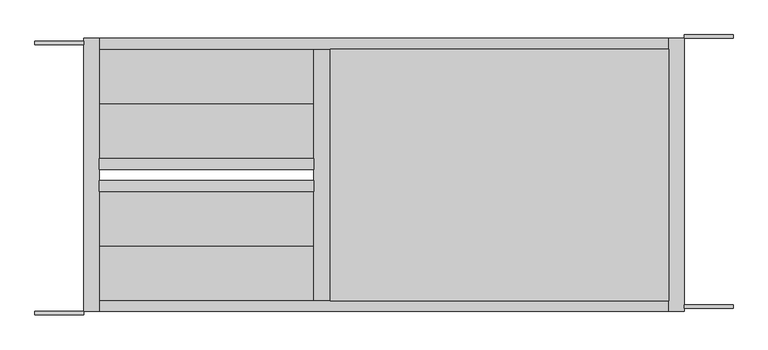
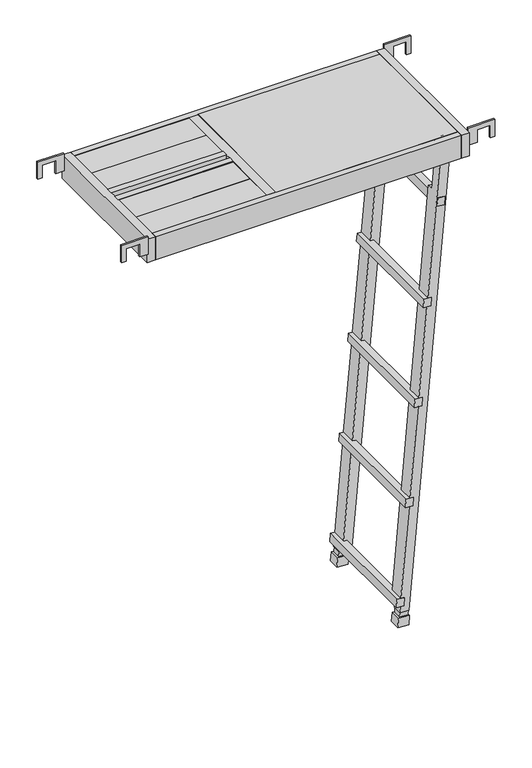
"""IFC4 building model written with IfcOpenShell, lengths in millimetres: proxy geometry, AK_アルミハッチ式布板HF-512HT(タラップ式)_軽 : AK_アルミハッチ式布板HF-512HT(タラップ式)_軽."""

from ifc_helpers import new_model, si_unit, point, frame, origin, place, context, project, spatial, polyline, circle_curve, ellipse_curve, trimmed, outline, extrude, faceted_brep, source, transform, mapped, element, save
from ifc_brep_helpers import plane_surface, cylinder_surface, revolved_surface, advanced_brep


def generic_models_8592025f(model_context):
    return source(origin(), model_context, "Body", "SolidModel", [
        extrude(outline(polyline([(-24.1, 1787.514719), (22.0, 1787.514719), (22.0, 1832.514719), (-24.1, 1832.514719), (-24.1, 1847.514719), (37.5, 1847.514719), (37.5, 1758.0), (-24.1, 1758.0), (-24.1, 1787.514719)])), frame((0.0, 12.0, 0.0), z_axis=(0.0, 1.0, 0.0), x_axis=(0.0, 0.0, 1.0)), (0.0, 0.0, 1.0), 6.0),
        extrude(outline(polyline([(-24.1, 1787.514719), (22.0, 1787.514719), (22.0, 1832.514719), (-24.1, 1832.514719), (-24.1, 1847.514719), (37.5, 1847.514719), (37.5, 1758.0), (-24.1, 1758.0), (-24.1, 1787.514719)])), frame((0.0, 506.0, 0.0), z_axis=(0.0, 1.0, 0.0), x_axis=(0.0, 0.0, 1.0)), (0.0, 0.0, 1.0), 6.0),
        extrude(outline(polyline([(37.5, 572.5), (-24.1, 572.5), (-24.1, 587.5), (22.0, 587.5), (22.0, 632.5), (-24.1, 632.5), (-24.1, 662.0), (37.5, 662.0), (37.5, 572.5)])), frame((0.0, 0.0, 0.0), z_axis=(0.0, 1.0, 0.0), x_axis=(0.0, 0.0, 1.0)), (0.0, 0.0, 1.0), 6.0),
        extrude(outline(polyline([(37.5, 572.5), (-24.1, 572.5), (-24.1, 587.5), (22.0, 587.5), (22.0, 632.5), (-24.1, 632.5), (-24.1, 662.0), (37.5, 662.0), (37.5, 572.5)])), frame((0.0, 494.0, 0.0), z_axis=(0.0, 1.0, 0.0), x_axis=(0.0, 0.0, 1.0)), (0.0, 0.0, 1.0), 6.0),
        faceted_brep([(1696.8713185, 61.0, -7.6736677), (1728.7495289, 61.0, -10.4626497), (1728.7495289, 93.0919881, -10.4626497), (1696.8713185, 93.0919881, -7.6736677), (1679.8863585, 93.0919881, -201.8126482), (1679.8811943, 112.0, -201.871676), (1648.1829567, 112.0, -564.1841892), (1648.1829567, 61.0, -564.1841892), (1645.6379837, 61.0, -593.2733633), (1645.6379837, 112.0, -593.2733633), (1617.6699621, 112.0, -912.9493135), (1617.6699621, 61.0, -912.9493135), (1615.1250143, 61.0, -942.0381999), (1615.1250143, 112.0, -942.0381999), (1587.1739367, 112.0, -1261.5204792), (1587.1739367, 61.0, -1261.5204792), (1556.660942, 61.0, -1610.2856036), (1584.6289637, 61.0, -1290.6096533), (1584.6289637, 112.0, -1290.6096533), (1556.660942, 112.0, -1610.2856036), (1556.660942, 93.00001, -1610.2856036), (1711.7645689, 93.0919881, -204.6016302), (1584.192389, 61.0, -1662.7583192), (1584.192389, 93.00001, -1662.7583192), (1586.0594287, 93.00001, -1641.4179577), (1586.0594287, 112.0, -1641.4179577), (1711.7594047, 112.0, -204.660658), (1659.5661476, 61.0, -565.180097), (1657.0211838, 61.0, -594.2692585), (1629.0616404, 61.0, -913.9459491), (1626.5166964, 61.0, -943.0348519), (1598.5571276, 61.0, -1262.516387), (1596.0121638, 61.0, -1291.6055485), (1568.0526204, 61.0, -1611.2822392), (1565.5076764, 61.0, -1640.371142), (1554.1159942, 61.0, -1639.37449), (1552.3141786, 61.0, -1659.9693372), (1703.6334262, 61.0, -247.3604098), (1678.5293384, 61.0, -245.1640669), (1681.0742845, 61.0, -216.0751997), (1706.1783754, 61.0, -218.2715075), (1565.5729011, 112.0, -1639.6256188), (1568.0526204, 112.0, -1611.2822392), (1596.0121638, 112.0, -1291.6055485), (1598.5571276, 112.0, -1262.516387), (1626.5166964, 112.0, -943.0348519), (1629.0616404, 112.0, -913.9459491), (1657.0211838, 112.0, -594.2692585), (1659.5661476, 112.0, -565.180097), (1678.5293384, 112.0, -245.1640669), (1703.6334262, 112.0, -247.3604098), (1706.1783754, 112.0, -218.2715075), (1681.0742845, 112.0, -216.0751997), (1565.5729011, 93.00001, -1639.6256188), (1586.05974, 400.0, -1641.417985), (1711.7597159, 400.0, -204.6606852), (1679.8811942, 400.0, -201.871676), (1648.1829566, 400.0, -564.1841892), (1659.5661476, 400.0, -565.180097), (1657.0211838, 400.0, -594.2692585), (1645.6379837, 400.0, -593.2733633), (1617.669962, 400.0, -912.9493135), (1629.0616404, 400.0, -913.9459491), (1626.5166964, 400.0, -943.0348519), (1615.1250142, 400.0, -942.0381999), (1587.1739366, 400.0, -1261.5204792), (1598.5571276, 400.0, -1262.516387), (1596.0121638, 400.0, -1291.6055485), (1584.6289636, 400.0, -1290.6096533), (1556.660942, 400.0, -1610.2856036), (1568.0526204, 400.0, -1611.2822392), (1565.5729011, 400.0, -1639.6256188), (1703.6334262, 400.0, -247.3604098), (1678.5293384, 400.0, -245.1640669), (1681.0742845, 400.0, -216.0751997), (1706.1783754, 400.0, -218.2715075), (1696.8713185, 451.0, -7.6736677), (1728.7495289, 451.0, -10.4626497), (1584.3535869, 451.0, -1660.9158185), (1552.4753765, 451.0, -1658.1268364), (1554.1159942, 451.0, -1639.37449), (1565.5076764, 451.0, -1640.371142), (1568.0526204, 451.0, -1611.2822392), (1556.660942, 451.0, -1610.2856036), (1584.6289636, 451.0, -1290.6096533), (1596.0121638, 451.0, -1291.6055485), (1598.5571276, 451.0, -1262.516387), (1587.1739366, 451.0, -1261.5204792), (1615.1250143, 451.0, -942.0381999), (1626.5166964, 451.0, -943.0348519), (1629.0616404, 451.0, -913.9459491), (1617.6699621, 451.0, -912.9493135), (1645.6379837, 451.0, -593.2733633), (1657.0211838, 451.0, -594.2692585), (1659.5661476, 451.0, -565.180097), (1648.1829567, 451.0, -564.1841892), (1678.5293384, 451.0, -245.1640669), (1703.6334262, 451.0, -247.3604098), (1706.1783754, 451.0, -218.2715075), (1681.0742845, 451.0, -216.0751997), (1696.8713184, 418.9080119, -7.6736677), (1679.8811942, 418.9080119, -201.871676), (1556.660942, 418.99999, -1610.2856036), (1565.5729011, 418.99999, -1639.6256188), (1586.05974, 418.99999, -1641.417985), (1584.3538982, 418.99999, -1660.9158457), (1728.7498401, 418.9080119, -10.4626769), (1711.7648802, 418.9080119, -204.6016575), (1703.6334262, 452.0, -247.3604098), (1678.5293384, 452.0, -245.1640669), (1681.0742845, 452.0, -216.0751997), (1706.1783754, 452.0, -218.2715075), (1703.6334262, 60.0, -247.3604098), (1706.1783754, 60.0, -218.2715075), (1681.0742845, 60.0, -216.0751997), (1678.5293384, 60.0, -245.1640669), (1631.9170612, 60.0, -592.0729451), (1657.0211838, 60.0, -594.2692585), (1659.5661476, 60.0, -565.180097), (1634.4620596, 60.0, -562.9837569), (1631.9170612, 452.0, -592.0729451), (1634.4620596, 452.0, -562.9837569), (1659.5661476, 452.0, -565.180097), (1657.0211838, 452.0, -594.2692585), (1603.9575496, 60.0, -911.7496414), (1601.4125766, 60.0, -940.8385062), (1626.5166964, 60.0, -943.0348519), (1629.0616404, 60.0, -913.9459491), (1603.9575496, 452.0, -911.7496414), (1629.0616404, 452.0, -913.9459491), (1626.5166964, 452.0, -943.0348519), (1601.4125766, 452.0, -940.8385062), (1573.4530396, 60.0, -1260.320047), (1570.9080412, 60.0, -1289.4092351), (1596.0121638, 60.0, -1291.6055485), (1598.5571276, 60.0, -1262.516387), (1573.4530396, 452.0, -1260.320047), (1598.5571276, 452.0, -1262.516387), (1596.0121638, 452.0, -1291.6055485), (1570.9080412, 452.0, -1289.4092351), (1542.9485296, 60.0, -1609.0859315), (1540.4035566, 60.0, -1638.1747963), (1565.5076764, 60.0, -1640.371142), (1568.0526204, 60.0, -1611.2822392), (1542.9485296, 452.0, -1609.0859315), (1568.0526204, 452.0, -1611.2822392), (1565.5076764, 452.0, -1640.371142), (1540.4035566, 452.0, -1638.1747963), (1554.1159942, 418.99999, -1639.37449), (1565.5076764, 418.99999, -1640.371142), (1565.5076764, 93.00001, -1640.371142), (1554.1159942, 93.00001, -1639.37449), (1552.4753765, 418.99999, -1658.1268364), (1552.3141786, 93.00001, -1659.9693372)], [[[0, 1, 2, 3]], [[0, 3, 4, 5, 6, 7]], [[8, 9, 10, 11]], [[12, 13, 14, 15]], [[16, 17, 18, 19, 20]], [[3, 2, 21, 4]], [[2, 1, 22, 23, 24, 25, 26, 21]], [[22, 1, 0, 7, 27, 28, 8, 11, 29, 30, 12, 15, 31, 32, 17, 16, 33, 34, 35, 36], [37, 38, 39, 40]], [[5, 26, 25, 41, 42, 19, 18, 43, 44, 14, 13, 45, 46, 10, 9, 47, 48, 6], [49, 50, 51, 52]], [[41, 25, 24, 53]], [[26, 5, 4, 21]], [[54, 55, 56, 57, 58, 59, 60, 61, 62, 63, 64, 65, 66, 67, 68, 69, 70, 71], [72, 73, 74, 75]], [[76, 77, 78, 79, 80, 81, 82, 83, 84, 85, 86, 87, 88, 89, 90, 91, 92, 93, 94, 95], [96, 97, 98, 99]], [[100, 76, 95, 57, 56, 101]], [[60, 92, 91, 61]], [[64, 88, 87, 65]], [[68, 84, 83, 102, 69]], [[54, 71, 103, 104]], [[55, 54, 104, 105, 78, 77, 106, 107]], [[56, 55, 107, 101]], [[108, 109, 110, 111]], [[112, 113, 114, 115]], [[109, 108, 97, 96]], [[112, 115, 38, 37]], [[72, 50, 49, 73]], [[110, 109, 96, 99]], [[115, 114, 39, 38]], [[73, 49, 52, 74]], [[111, 110, 99, 98]], [[114, 113, 40, 39]], [[74, 52, 51, 75]], [[108, 111, 98, 97]], [[113, 112, 37, 40]], [[50, 72, 75, 51]], [[76, 100, 106, 77]], [[106, 100, 101, 107]], [[116, 117, 118, 119]], [[120, 121, 122, 123]], [[117, 116, 120, 123, 93, 92, 60, 59, 47, 9, 8, 28]], [[118, 117, 28, 27]], [[123, 122, 94, 93]], [[47, 59, 58, 48]], [[119, 118, 27, 7, 6, 48, 58, 57, 95, 94, 122, 121]], [[116, 119, 121, 120]], [[124, 125, 126, 127]], [[128, 129, 130, 131]], [[125, 124, 128, 131]], [[126, 125, 131, 130, 89, 88, 64, 63, 45, 13, 12, 30]], [[127, 126, 30, 29]], [[130, 129, 90, 89]], [[45, 63, 62, 46]], [[124, 127, 29, 11, 10, 46, 62, 61, 91, 90, 129, 128]], [[132, 133, 134, 135]], [[136, 137, 138, 139]], [[133, 132, 136, 139]], [[134, 133, 139, 138, 85, 84, 68, 67, 43, 18, 17, 32]], [[135, 134, 32, 31]], [[138, 137, 86, 85]], [[43, 67, 66, 44]], [[132, 135, 31, 15, 14, 44, 66, 65, 87, 86, 137, 136]], [[140, 141, 142, 143]], [[144, 145, 146, 147]], [[141, 140, 144, 147]], [[142, 141, 147, 146, 81, 80, 148, 149, 150, 151, 35, 34]], [[143, 142, 34, 33]], [[146, 145, 82, 81]], [[70, 42, 41, 53, 150, 149, 103, 71]], [[140, 143, 33, 16, 20, 19, 42, 70, 69, 102, 83, 82, 145, 144]], [[78, 105, 152, 79]], [[79, 152, 148, 80]], [[152, 105, 104, 103, 149, 148]], [[22, 36, 153, 23]], [[153, 36, 35, 151]], [[23, 153, 151, 150, 53, 24]]]),
        advanced_brep(
        [(1696.4537998, 26.0, -30.0), (1688.4537998, 26.0, -30.0), (1688.4537998, 90.1689973, -30.0), (1696.4537998, 90.1689973, -30.0), (1708.8086099, 102.5238074, -30.0), (1708.8086099, 110.5238074, -30.0), (1723.8086099, 102.5238074, -30.0), (1723.8086099, 110.5238074, -30.0)],
        [
            (0, 1, circle_curve(frame((1692.4537998, 26.0, -30.0), z_axis=(0.0, -1.0, 0.0), x_axis=(-1.0, 0.0, 0.0)), 4.0)),
            (1, 0, circle_curve(frame((1692.4537998, 26.0, -30.0), z_axis=(0.0, -1.0, 0.0), x_axis=(-1.0, 0.0, 0.0)), 4.0)),
            (1, 2),
            (2, 3, circle_curve(frame((1692.4537998, 90.1689973, -30.0), z_axis=(0.0, -1.0, 0.0), x_axis=(-1.0, 0.0, 0.0)), 4.0)),
            (3, 0),
            (3, 2, circle_curve(frame((1692.4537998, 90.1689973, -30.0), z_axis=(0.0, -1.0, 0.0), x_axis=(-1.0, 0.0, 0.0)), 4.0)),
            (4, 3, circle_curve(frame((1708.8086099, 90.1689973, -30.0), z_axis=(0.0, 0.0, 1.0), x_axis=(-1.0, 0.0, 0.0)), 12.35481)),
            (2, 5, circle_curve(frame((1708.8086099, 90.1689973, -30.0), z_axis=(0.0, 0.0, -1.0), x_axis=(-1.0, 0.0, 0.0)), 20.35481)),
            (5, 4, circle_curve(frame((1708.8086099, 106.5238074, -30.0), z_axis=(-1.0, 0.0, 0.0), x_axis=(0.0, 1.0, 0.0)), 4.0)),
            (4, 5, circle_curve(frame((1708.8086099, 106.5238074, -30.0), z_axis=(-1.0, 0.0, 0.0), x_axis=(0.0, 1.0, 0.0)), 4.0)),
            (6, 7, circle_curve(frame((1723.8086099, 106.5238074, -30.0), z_axis=(1.0, 0.0, 0.0), x_axis=(0.0, 1.0, 0.0)), 4.0)),
            (7, 6, circle_curve(frame((1723.8086099, 106.5238074, -30.0), z_axis=(1.0, 0.0, 0.0), x_axis=(0.0, 1.0, 0.0)), 4.0)),
            (5, 7),
            (6, 4),
        ],
        [
            plane_surface(frame((1692.4537998, 26.0, -30.0), z_axis=(0.0, -1.0, 0.0), x_axis=(0.0, 0.0, 1.0))),
            cylinder_surface(frame((1692.4537998, 26.0, -30.0), z_axis=(0.0, -1.0, 0.0), x_axis=(-1.0, 0.0, 0.0)), 4.0),
            revolved_surface(trimmed(ellipse_curve(frame((1692.4537998, 90.1689973, -30.0), z_axis=(0.0, -1.0, 0.0), x_axis=(-1.0, 0.0, 0.0)), 4.0, 4.0), [point((1688.4537998, 90.1689973, -30.0))], [point((1696.4537998, 90.1689973, -30.0))], True, "CARTESIAN"), (1708.8086099, 90.1689973, -30.0), (0.0, 0.0, -1.0)),
            revolved_surface(trimmed(ellipse_curve(frame((1692.4537998, 90.1689973, -30.0), z_axis=(0.0, -1.0, 0.0), x_axis=(-1.0, 0.0, 0.0)), 4.0, 4.0), [point((1696.4537998, 90.1689973, -30.0))], [point((1688.4537998, 90.1689973, -30.0))], True, "CARTESIAN"), (1708.8086099, 90.1689973, -30.0), (0.0, 0.0, -1.0)),
            plane_surface(frame((1723.8086099, 106.5238074, -30.0), z_axis=(1.0, 0.0, 0.0), x_axis=(0.0, 0.0, 1.0))),
            cylinder_surface(frame((1708.8086099, 106.5238074, -30.0), z_axis=(-1.0, 0.0, 0.0), x_axis=(0.0, 1.0, 0.0)), 4.0),
        ],
        [
            (0, [[1, 2]]),
            (1, [[-2, 3, 4, 5]]),
            (1, [[-1, -5, 6, -3]]),
            (2, [[7, -4, 8, 9]]),
            (3, [[-8, -6, -7, 10]]),
            (4, [[11, 12]]),
            (5, [[-9, 13, -11, 14]]),
            (5, [[-10, -14, -12, -13]]),
        ],
    ),
        advanced_brep(
        [(1688.4537998, 486.0, -30.0), (1696.4537998, 486.0, -30.0), (1688.4537998, 421.8310027, -30.0), (1696.4537998, 421.8310027, -30.0), (1708.8086099, 409.4761926, -30.0), (1708.8086099, 401.4761926, -30.0), (1723.8086099, 401.4761926, -30.0), (1723.8086099, 409.4761926, -30.0)],
        [
            (0, 1, circle_curve(frame((1692.4537998, 486.0, -30.0), z_axis=(0.0, 1.0, 0.0), x_axis=(1.0, 0.0, 0.0)), 4.0)),
            (1, 0, circle_curve(frame((1692.4537998, 486.0, -30.0), z_axis=(0.0, 1.0, 0.0), x_axis=(1.0, 0.0, 0.0)), 4.0)),
            (0, 2),
            (2, 3, circle_curve(frame((1692.4537998, 421.8310027, -30.0), z_axis=(0.0, 1.0, 0.0), x_axis=(1.0, 0.0, 0.0)), 4.0)),
            (3, 1),
            (3, 2, circle_curve(frame((1692.4537998, 421.8310027, -30.0), z_axis=(0.0, 1.0, 0.0), x_axis=(1.0, 0.0, 0.0)), 4.0)),
            (4, 3, circle_curve(frame((1708.8086099, 421.8310027, -30.0), z_axis=(0.0, 0.0, -1.0), x_axis=(-1.0, 0.0, 0.0)), 12.35481)),
            (2, 5, circle_curve(frame((1708.8086099, 421.8310027, -30.0), z_axis=(0.0, 0.0, 1.0), x_axis=(-1.0, 0.0, 0.0)), 20.35481)),
            (5, 4, circle_curve(frame((1708.8086099, 405.4761926, -30.0), z_axis=(-1.0, 0.0, 0.0), x_axis=(0.0, 1.0, 0.0)), 4.0)),
            (4, 5, circle_curve(frame((1708.8086099, 405.4761926, -30.0), z_axis=(-1.0, 0.0, 0.0), x_axis=(0.0, 1.0, 0.0)), 4.0)),
            (6, 7, circle_curve(frame((1723.8086099, 405.4761926, -30.0), z_axis=(1.0, 0.0, 0.0), x_axis=(0.0, 1.0, 0.0)), 4.0)),
            (7, 6, circle_curve(frame((1723.8086099, 405.4761926, -30.0), z_axis=(1.0, 0.0, 0.0), x_axis=(0.0, 1.0, 0.0)), 4.0)),
            (5, 6),
            (7, 4),
        ],
        [
            plane_surface(frame((1692.4537998, 486.0, -30.0), z_axis=(0.0, 1.0, 0.0), x_axis=(0.0, 0.0, 1.0))),
            cylinder_surface(frame((1692.4537998, 486.0, -30.0), z_axis=(0.0, 1.0, 0.0), x_axis=(1.0, 0.0, 0.0)), 4.0),
            revolved_surface(trimmed(ellipse_curve(frame((1692.4537998, 421.8310027, -30.0), z_axis=(0.0, 1.0, 0.0), x_axis=(1.0, 0.0, 0.0)), 4.0, 4.0), [point((1688.4537998, 421.8310027, -30.0))], [point((1696.4537998, 421.8310027, -30.0))], True, "CARTESIAN"), (1708.8086099, 421.8310027, -30.0), (0.0, 0.0, 1.0)),
            revolved_surface(trimmed(ellipse_curve(frame((1692.4537998, 421.8310027, -30.0), z_axis=(0.0, 1.0, 0.0), x_axis=(1.0, 0.0, 0.0)), 4.0, 4.0), [point((1696.4537998, 421.8310027, -30.0))], [point((1688.4537998, 421.8310027, -30.0))], True, "CARTESIAN"), (1708.8086099, 421.8310027, -30.0), (0.0, 0.0, 1.0)),
            plane_surface(frame((1723.8086099, 405.4761926, -30.0), z_axis=(1.0, 0.0, 0.0), x_axis=(0.0, 0.0, 1.0))),
            cylinder_surface(frame((1708.8086099, 405.4761926, -30.0), z_axis=(-1.0, 0.0, 0.0), x_axis=(0.0, 1.0, 0.0)), 4.0),
        ],
        [
            (0, [[1, 2]]),
            (1, [[-1, 3, 4, 5]]),
            (1, [[-2, -5, 6, -3]]),
            (2, [[7, -4, 8, 9]]),
            (3, [[-8, -6, -7, 10]]),
            (4, [[11, 12]]),
            (5, [[-9, 13, -12, 14]]),
            (5, [[-10, -14, -11, -13]]),
        ],
    ),
        extrude(outline(polyline([(0.0, 0.0), (36.2320505, 0.0), (36.2320505, -37.6491626), (0.0, -37.6491626), (0.0, 0.0)])), frame((1581.7880686, 453.2223742, -1712.979101), z_axis=(0.08715574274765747, 0.0, 0.9961946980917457), x_axis=(0.0, -1.0, 0.0)), (0.0, 0.0, 1.0), 32.7312455),
        extrude(outline(polyline([(49.0120246, 0.0), (86.6611873, 0.0), (86.6611873, -36.2320505), (49.0120246, -36.2320505), (49.0120246, 0.0)])), frame((1630.6135877, 58.7776258, -1717.2507804), z_axis=(0.08715574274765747, 0.0, 0.9961946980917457), x_axis=(-0.9961946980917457, 0.0, 0.08715574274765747)), (0.0, 0.0, 1.0), 32.7312455),
        extrude(outline(polyline([(0.0, 0.0), (28.1293092, 0.0), (28.1293092, -28.1661485), (0.0, -28.1661485), (0.0, 0.0)])), frame((1580.7901708, 449.0672328, -1680.0355227), z_axis=(0.08715574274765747, 0.0, 0.9961946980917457), x_axis=(0.0, -1.0, 0.0)), (0.0, 0.0, 1.0), 19.3575202),
        extrude(outline(polyline([(20.3901804, 0.0), (48.5563289, 0.0), (48.5563289, -28.1293092), (20.3901804, -28.1293092), (20.3901804, 0.0)])), frame((1601.1027604, 62.9327672, -1681.812644), z_axis=(0.08715574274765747, 0.0, 0.9961946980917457), x_axis=(-0.9961946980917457, 0.0, 0.08715574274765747)), (0.0, 0.0, 1.0), 17.5079813),
        extrude(outline(polyline([(1730.0, 486.0), (1730.0, 26.0), (1112.0, 26.0), (1112.0, 486.0), (1730.0, 486.0)])), frame((0.0, 0.0, 22.5), z_axis=(0.0, 0.0, 1.0), x_axis=(1.0, 0.0, 0.0)), (0.0, 0.0, 1.0), 2.5),
        extrude(outline(polyline([(1112.0, 26.0), (1081.80002, 26.0), (1081.80002, 486.0), (1112.0, 486.0), (1112.0, 26.0)])), frame((0.0, 0.0, -20.0), z_axis=(0.0, 0.0, 1.0), x_axis=(1.0, 0.0, 0.0)), (0.0, 0.0, 1.0), 44.1),
        extrude(outline(polyline([(1081.80002, 486.0), (1081.80002, 386.0), (690.0, 386.0), (690.0, 486.0), (1081.80002, 486.0)])), frame((0.0, 0.0, 17.5), z_axis=(0.0, 0.0, 1.0), x_axis=(1.0, 0.0, 0.0)), (0.0, 0.0, 1.0), 5.0),
        extrude(outline(polyline([(1081.80002, 386.0), (1081.80002, 286.0), (690.0, 286.0), (690.0, 386.0), (1081.80002, 386.0)])), frame((0.0, 0.0, 17.5), z_axis=(0.0, 0.0, 1.0), x_axis=(1.0, 0.0, 0.0)), (0.0, 0.0, 1.0), 5.0),
        extrude(outline(polyline([(1081.80002, 226.0), (1081.80002, 126.0), (690.0, 126.0), (690.0, 226.0), (1081.80002, 226.0)])), frame((0.0, 0.0, 17.5), z_axis=(0.0, 0.0, 1.0), x_axis=(1.0, 0.0, 0.0)), (0.0, 0.0, 1.0), 5.0),
        extrude(outline(polyline([(1081.80002, 126.0), (1081.80002, 26.0), (690.0, 26.0), (690.0, 126.0), (1081.80002, 126.0)])), frame((0.0, 0.0, 17.5), z_axis=(0.0, 0.0, 1.0), x_axis=(1.0, 0.0, 0.0)), (0.0, 0.0, 1.0), 5.0),
        extrude(outline(polyline([(1081.80002, 286.0), (1081.80002, 266.0), (690.0, 266.0), (690.0, 286.0), (1081.80002, 286.0)])), frame((0.0, 0.0, -20.0), z_axis=(0.0, 0.0, 1.0), x_axis=(1.0, 0.0, 0.0)), (0.0, 0.0, 1.0), 45.0),
        extrude(outline(polyline([(1081.80002, 246.0), (1081.80002, 226.0), (690.0, 226.0), (690.0, 246.0), (1081.80002, 246.0)])), frame((0.0, 0.0, -20.0), z_axis=(0.0, 0.0, 1.0), x_axis=(1.0, 0.0, 0.0)), (0.0, 0.0, 1.0), 45.0),
        extrude(outline(polyline([(1730.0, 6.0), (1730.0, 506.0), (1758.0, 506.0), (1758.0, 6.0), (1730.0, 6.0)])), frame((0.0, 0.0, -58.0), z_axis=(0.0, 0.0, 1.0), x_axis=(1.0, 0.0, 0.0)), (0.0, 0.0, 1.0), 83.0),
        extrude(outline(polyline([(662.0, 6.0), (662.0, 506.0), (690.0, 506.0), (690.0, 6.0), (662.0, 6.0)])), frame((0.0, 0.0, -58.0), z_axis=(0.0, 0.0, 1.0), x_axis=(1.0, 0.0, 0.0)), (0.0, 0.0, 1.0), 83.0),
        extrude(outline(polyline([(1730.0, 506.0), (1730.0, 486.0), (690.0, 486.0), (690.0, 506.0), (1730.0, 506.0)])), frame((0.0, 0.0, -58.0), z_axis=(0.0, 0.0, 1.0), x_axis=(1.0, 0.0, 0.0)), (0.0, 0.0, 1.0), 83.0),
        extrude(outline(polyline([(1730.0, 26.0), (1730.0, 6.0), (690.0, 6.0), (690.0, 26.0), (1730.0, 26.0)])), frame((0.0, 0.0, -58.0), z_axis=(0.0, 0.0, 1.0), x_axis=(1.0, 0.0, 0.0)), (0.0, 0.0, 1.0), 83.0),
    ])


if __name__ == "__main__":
    model = new_model("IFC4")
    model_context = context("Model", 3, world=origin())
    ifc_project = project(units=[si_unit("LENGTHUNIT", "METRE", prefix="MILLI")], contexts=[model_context])
    site = spatial("IfcSite", under=ifc_project)
    building = spatial("IfcBuilding", under=site)
    placement = place(None, origin())
    generic_models_shape = generic_models_8592025f(model_context)
    element("IfcBuildingElementProxy", 1, Name="AK_アルミハッチ式布板HF-512HT(タラップ式)_軽 : AK_アルミハッチ式布板HF-512HT(タラップ式)_軽", ObjectType="AK_アルミハッチ式布板HF-512HT(タラップ式)_軽 : AK_アルミハッチ式布板HF-512HT(タラップ式)_軽", at=placement, inside=building, context=model_context, shape_type="MappedRepresentation", body=[
        mapped(generic_models_shape, transform((0.0, 0.0, 0.0), x_axis=(1.0, 0.0, 0.0), y_axis=(0.0, 1.0, 0.0), z_axis=(0.0, 0.0, 1.0))),
    ])
    save(model, "model.ifc")
